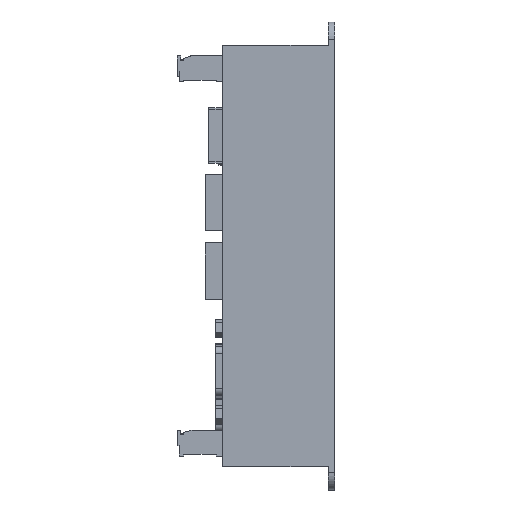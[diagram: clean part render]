
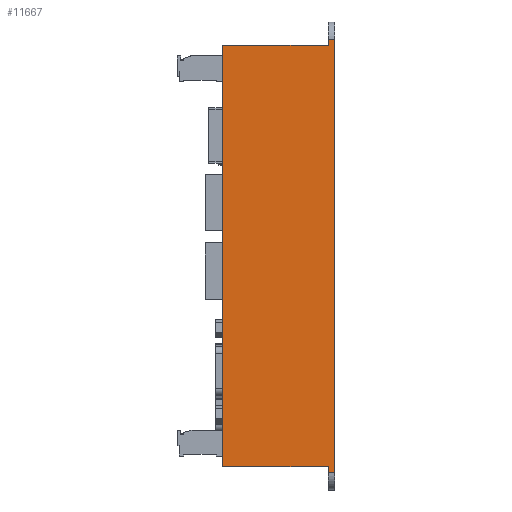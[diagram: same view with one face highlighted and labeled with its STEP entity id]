
A CAD part, left-side view. The second image highlights one B-rep face of the part: STEP entity #11667.
In plain terms, the highlighted planar face has unit normal (-1, 0, 0).
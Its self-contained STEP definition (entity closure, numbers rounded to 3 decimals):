
#1244 = DIRECTION ( 'NONE',  ( 0., -1., 0. ) ) ;
#1261 = DIRECTION ( 'NONE',  ( 0., 0., 1. ) ) ;
#1741 = CARTESIAN_POINT ( 'NONE',  ( -102.5, 32.4, 60.875 ) ) ;
#2123 = EDGE_CURVE ( 'NONE', #31546, #16504, #11107, .T. ) ;
#2344 = PLANE ( 'NONE',  #14810 ) ;
#2610 = EDGE_CURVE ( 'NONE', #16504, #18692, #28599, .T. ) ;
#2690 = CARTESIAN_POINT ( 'NONE',  ( -102.5, 0., 62.625 ) ) ;
#2737 = CARTESIAN_POINT ( 'NONE',  ( -102.5, 32.4, -60.875 ) ) ;
#3234 = VECTOR ( 'NONE', #1244, 1000. ) ;
#4184 = CARTESIAN_POINT ( 'NONE',  ( -102.5, 1.8, 62.625 ) ) ;
#4298 = VECTOR ( 'NONE', #16988, 1000. ) ;
#4660 = EDGE_CURVE ( 'NONE', #8252, #28461, #10574, .T. ) ;
#4943 = FACE_OUTER_BOUND ( 'NONE', #32799, .T. ) ;
#5628 = DIRECTION ( 'NONE',  ( 0., -1., 0. ) ) ;
#6766 = VERTEX_POINT ( 'NONE', #11622 ) ;
#8119 = VECTOR ( 'NONE', #36791, 1000. ) ;
#8252 = VERTEX_POINT ( 'NONE', #2690 ) ;
#8900 = CARTESIAN_POINT ( 'NONE',  ( -102.5, 1.8, -62.625 ) ) ;
#8907 = ORIENTED_EDGE ( 'NONE', *, *, #26312, .T. ) ;
#9411 = ORIENTED_EDGE ( 'NONE', *, *, #2610, .F. ) ;
#10401 = DIRECTION ( 'NONE',  ( 0., 1., 0. ) ) ;
#10459 = CARTESIAN_POINT ( 'NONE',  ( -102.5, 1.8, -67.625 ) ) ;
#10574 = LINE ( 'NONE', #4184, #13920 ) ;
#11107 = LINE ( 'NONE', #23079, #25627 ) ;
#11622 = CARTESIAN_POINT ( 'NONE',  ( -102.5, 1.8, -62.625 ) ) ;
#11667 = ADVANCED_FACE ( 'NONE', ( #4943 ), #2344, .F. ) ;
#13314 = CARTESIAN_POINT ( 'NONE',  ( -102.5, 1.8, 62.625 ) ) ;
#13560 = ORIENTED_EDGE ( 'NONE', *, *, #20289, .T. ) ;
#13819 = LINE ( 'NONE', #10459, #24111 ) ;
#13920 = VECTOR ( 'NONE', #10401, 1000. ) ;
#14146 = DIRECTION ( 'NONE',  ( 0., 0., 1. ) ) ;
#14227 = LINE ( 'NONE', #20762, #4298 ) ;
#14339 = CARTESIAN_POINT ( 'NONE',  ( -102.5, 1.8, -67.625 ) ) ;
#14810 = AXIS2_PLACEMENT_3D ( 'NONE', #14339, #17518, #17701 ) ;
#15817 = LINE ( 'NONE', #25190, #3234 ) ;
#16504 = VERTEX_POINT ( 'NONE', #1741 ) ;
#16988 = DIRECTION ( 'NONE',  ( 0., 0., 1. ) ) ;
#17518 = DIRECTION ( 'NONE',  ( 1., 0., 0. ) ) ;
#17701 = DIRECTION ( 'NONE',  ( 0., 0., -1. ) ) ;
#18692 = VERTEX_POINT ( 'NONE', #38656 ) ;
#19183 = EDGE_CURVE ( 'NONE', #32174, #8252, #29274, .T. ) ;
#19197 = CARTESIAN_POINT ( 'NONE',  ( -102.5, 0., -62.625 ) ) ;
#19943 = ORIENTED_EDGE ( 'NONE', *, *, #19183, .T. ) ;
#20289 = EDGE_CURVE ( 'NONE', #6766, #32174, #21671, .T. ) ;
#20762 = CARTESIAN_POINT ( 'NONE',  ( -102.5, 1.8, -67.625 ) ) ;
#21610 = VECTOR ( 'NONE', #14146, 1000. ) ;
#21671 = LINE ( 'NONE', #8900, #8119 ) ;
#23079 = CARTESIAN_POINT ( 'NONE',  ( -102.5, 32.4, -60.875 ) ) ;
#24111 = VECTOR ( 'NONE', #1261, 1000. ) ;
#25190 = CARTESIAN_POINT ( 'NONE',  ( -102.5, 32.4, -60.875 ) ) ;
#25627 = VECTOR ( 'NONE', #35584, 1000. ) ;
#26312 = EDGE_CURVE ( 'NONE', #31546, #32204, #15817, .T. ) ;
#27018 = ORIENTED_EDGE ( 'NONE', *, *, #2123, .F. ) ;
#28461 = VERTEX_POINT ( 'NONE', #13314 ) ;
#28599 = LINE ( 'NONE', #38718, #38937 ) ;
#29274 = LINE ( 'NONE', #32461, #21610 ) ;
#30556 = EDGE_CURVE ( 'NONE', #18692, #28461, #14227, .T. ) ;
#31546 = VERTEX_POINT ( 'NONE', #2737 ) ;
#31740 = EDGE_CURVE ( 'NONE', #6766, #32204, #13819, .T. ) ;
#32174 = VERTEX_POINT ( 'NONE', #19197 ) ;
#32204 = VERTEX_POINT ( 'NONE', #33545 ) ;
#32461 = CARTESIAN_POINT ( 'NONE',  ( -102.5, 0., -67.625 ) ) ;
#32582 = ORIENTED_EDGE ( 'NONE', *, *, #30556, .F. ) ;
#32799 = EDGE_LOOP ( 'NONE', ( #19943, #33067, #32582, #9411, #27018, #8907, #36203, #13560 ) ) ;
#33067 = ORIENTED_EDGE ( 'NONE', *, *, #4660, .T. ) ;
#33545 = CARTESIAN_POINT ( 'NONE',  ( -102.5, 1.8, -60.875 ) ) ;
#35584 = DIRECTION ( 'NONE',  ( 0., 0., 1. ) ) ;
#36203 = ORIENTED_EDGE ( 'NONE', *, *, #31740, .F. ) ;
#36791 = DIRECTION ( 'NONE',  ( 0., -1., 0. ) ) ;
#38656 = CARTESIAN_POINT ( 'NONE',  ( -102.5, 1.8, 60.875 ) ) ;
#38718 = CARTESIAN_POINT ( 'NONE',  ( -102.5, 32.4, 60.875 ) ) ;
#38937 = VECTOR ( 'NONE', #5628, 1000. ) ;
